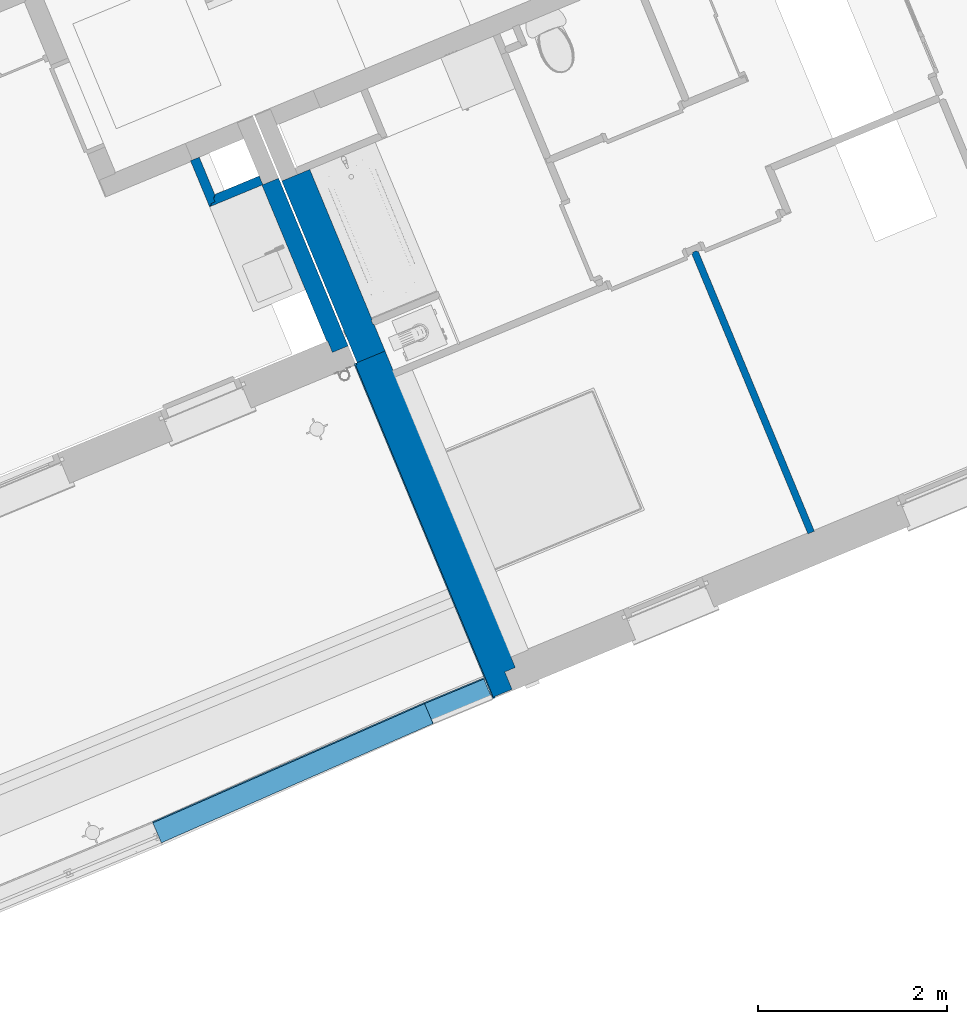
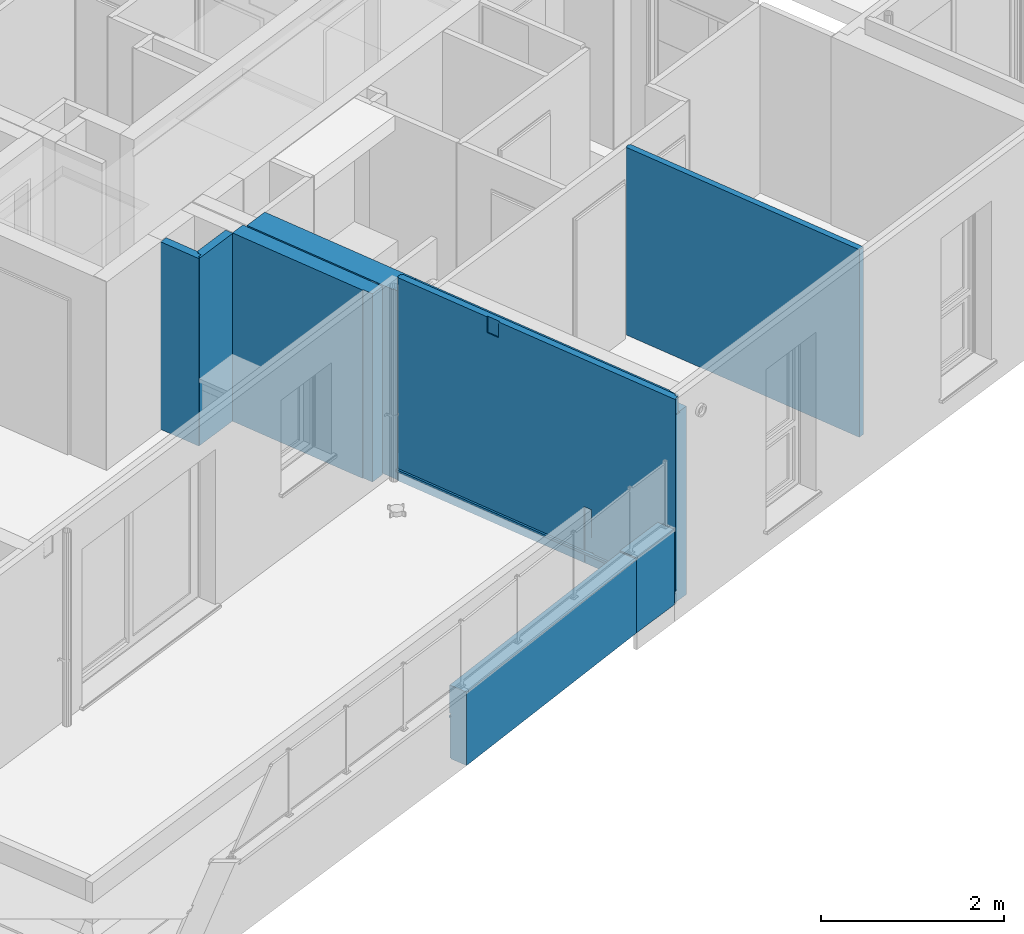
# One storey, part 37 of 119: 8 walls.
"""IFC2X3 building model written with IfcOpenShell, lengths in metres."""

from ifc_helpers import new_model, entity, si_unit, converted_unit, derived_unit, money_unit, direction, frame, origin_with_axes, place, context, subcontext, project, spatial, faceted_brep, material, material_list, type_object, element, save


model = new_model("IFC2X3")

# Units and contexts
model_context = context("Model", 3, precision=1e-05, world=origin_with_axes(), true_north=direction((0.0, 1.0)))
body_context = subcontext(model_context, "Body", "Model", "MODEL_VIEW")
ifc_project = project(units=[si_unit("LENGTHUNIT", "METRE"), si_unit("AREAUNIT", "SQUARE_METRE"), si_unit("VOLUMEUNIT", "CUBIC_METRE"), converted_unit("PLANEANGLEUNIT", "DEGREE", entity("IfcPlaneAngleMeasure", 0.0174532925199), si_unit("PLANEANGLEUNIT", "RADIAN"), dimensions=[0, 0, 0, 0, 0, 0, 0]), si_unit("SOLIDANGLEUNIT", "STERADIAN"), money_unit("EUR"), converted_unit("TIMEUNIT", "Year", entity("IfcTimeMeasure", 31556926.0), si_unit("TIMEUNIT", "SECOND"), dimensions=[0, 0, 1, 0, 0, 0, 0]), si_unit("MASSUNIT", "GRAM", prefix="KILO"), si_unit("THERMODYNAMICTEMPERATUREUNIT", "DEGREE_CELSIUS"), si_unit("LUMINOUSINTENSITYUNIT", "LUMEN"), si_unit("ENERGYUNIT", "JOULE", prefix="MEGA"), derived_unit("THERMALCONDUCTANCEUNIT", [(si_unit("POWERUNIT", "WATT"), 1), (si_unit("LENGTHUNIT", "METRE"), -1), (si_unit("THERMODYNAMICTEMPERATUREUNIT", "KELVIN"), -1)]), derived_unit("SPECIFICHEATCAPACITYUNIT", [(si_unit("ENERGYUNIT", "JOULE"), 1), (si_unit("MASSUNIT", "GRAM", prefix="KILO"), -1), (si_unit("THERMODYNAMICTEMPERATUREUNIT", "KELVIN"), -1)]), derived_unit("MASSDENSITYUNIT", [(si_unit("MASSUNIT", "GRAM", prefix="KILO"), 1), (si_unit("VOLUMEUNIT", "CUBIC_METRE"), -1)])], contexts=[model_context])

# Site, building, storey
site_placement = place(None, origin_with_axes())
site = spatial("IfcSite", under=ifc_project, at=site_placement, Name="Site", CompositionType="ELEMENT")
building_placement = place(site_placement, origin_with_axes())
building = spatial("IfcBuilding", under=site, at=building_placement, Name="Bâtiment", CompositionType="ELEMENT")
storey_placement = place(building_placement, origin_with_axes())
storey = spatial("IfcBuildingStorey", under=building, at=storey_placement, Name="Rez-de-chaussée", CompositionType="ELEMENT", Elevation=0.0)

# Walls
ifc_material_1 = material(Name="Finition int - Plaque de plâtre")
ifc_material_2 = material(Name="Isolation - Laine de roche")
ifc_material_list_1 = material_list([ifc_material_1, ifc_material_2, ifc_material_1])
wall_type_1 = type_object("IfcWallType", Name="3 - Cloison 72mm Placostil 74", PredefinedType="USERDEFINED")
wall_1_placement = place(storey_placement, frame((-18.0212047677, -23.4375216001, 0.0), z_axis=(0.0, 0.0, 1.0), x_axis=(0.383112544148, -0.923701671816, 0.0)))
element("IfcWall", 1, at=wall_1_placement, inside=storey, type_object=wall_type_1, material=ifc_material_list_1, Name="Cloison Placostil 72/48", ObjectType="PARTITIONING", context=body_context, shape_type="Brep", body=[
    faceted_brep([(0.0740000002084, -0.013, 2.5), (3.27899999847, -0.013, 2.5), (3.27899999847, 0.0, 2.5), (0.0740000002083, 0.0, 2.5), (0.0740000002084, -0.013, 0.0), (3.27899999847, -0.013, 0.0), (3.27899999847, 0.0, 0.0), (0.0740000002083, 0.0, 0.0)], [[[0, 1, 2, 3]], [[4, 5, 1, 0]], [[2, 1, 5, 6]], [[3, 2, 6, 7]], [[4, 0, 3, 7]], [[7, 6, 5, 4]]]),
    faceted_brep([(0.0610000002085, -0.061, 2.5), (3.27899999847, -0.061, 2.5), (3.27899999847, -0.013, 2.5), (0.0610000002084, -0.013, 2.5), (0.0610000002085, -0.061, 0.0), (3.27899999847, -0.061, 0.0), (3.27899999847, -0.013, 0.0), (0.0610000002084, -0.013, 0.0)], [[[0, 1, 2, 3]], [[4, 5, 1, 0]], [[2, 1, 5, 6]], [[3, 2, 6, 7]], [[4, 0, 3, 7]], [[7, 6, 5, 4]]]),
    faceted_brep([(0.0740000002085, -0.074, 2.5), (3.27899999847, -0.074, 2.5), (3.27899999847, -0.061, 2.5), (0.0740000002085, -0.061, 2.5), (0.0740000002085, -0.074, 0.0), (3.27899999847, -0.074, 0.0), (3.27899999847, -0.061, 0.0), (0.0740000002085, -0.061, 0.0)], [[[0, 1, 2, 3]], [[4, 5, 1, 0]], [[2, 1, 5, 6]], [[3, 2, 6, 7]], [[4, 0, 3, 7]], [[7, 6, 5, 4]]]),
])
ifc_material_3 = material(Name="Béton")
ifc_material_4 = material(Name="Finition int - Enduit plâtre")
ifc_material_list_2 = material_list([ifc_material_3, ifc_material_4])
wall_type_2 = type_object("IfcWallType", Name="2 - Murs Béton 18 + Enduit 1 Face 190", PredefinedType="USERDEFINED")
wall_2_placement = place(storey_placement, frame((-22.4313350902, -22.7328834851, 0.0), z_axis=(0.0, 0.0, 1.0), x_axis=(0.383112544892, -0.923701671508, 0.0)))
element("IfcWall", 2, at=wall_2_placement, inside=storey, type_object=wall_type_2, material=ifc_material_list_2, Name="M_Ext-008", ObjectType="SOLIDWALL", context=body_context, shape_type="Brep", body=[
    faceted_brep([(0.0, 0.0, 2.51), (1.91999998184, 0.0, 2.51), (1.91999998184, 0.0, 0.0), (0.0, 0.0, 0.0), (1.91999998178, -0.18, 2.51), (0.0, -0.18, 2.51), (1.91999998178, -0.18, 0.0), (0.0, -0.18, 0.0)], [[[0, 1, 2, 3]], [[4, 1, 0, 5]], [[1, 4, 6, 2]], [[3, 2, 6, 7]], [[5, 0, 3, 7]], [[4, 5, 7, 6]]]),
    faceted_brep([(0.0, -0.18, 2.51), (1.78999998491, -0.18, 2.51), (1.78999998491, -0.18, 0.0), (0.0, -0.18, 0.0), (1.78999998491, -0.19, 2.51), (0.0, -0.19, 2.51), (1.78999998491, -0.19, 0.0), (0.0, -0.19, 0.0)], [[[0, 1, 2, 3]], [[4, 1, 0, 5]], [[1, 4, 6, 2]], [[3, 2, 6, 7]], [[5, 0, 3, 7]], [[4, 5, 7, 6]]]),
])
ifc_material_5 = material(Name="Isolation - Polystyrène extrudé")
ifc_material_6 = material(Name="Bloc ELITHERM")
ifc_material_7 = material(Name="Isolation - Polystyrène expansé")
ifc_material_8 = material(Name="Mortier")
ifc_material_9 = material(Name="Béton cellulaire")
ifc_material_10 = material(Name="Etanchéité - Bitume")
ifc_material_11 = material(Name="Finition ext - Crépis")
ifc_material_12 = material(Name="Métal - Aluminium")
ifc_material_list_3 = material_list([ifc_material_1, ifc_material_5, ifc_material_6, ifc_material_7, ifc_material_8, ifc_material_9, ifc_material_10, ifc_material_11, ifc_material_12])
wall_type_3 = type_object("IfcWallType", Name="Mur ALKERN + planelle 21 TERRASSE RDC 356 x 2720", PredefinedType="USERDEFINED")
wall_3_placement = place(storey_placement, frame((-21.6376105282, -24.6987932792, 0.0), z_axis=(0.0, 0.0, 1.0), x_axis=(0.383112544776, -0.923701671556, 0.0)))
element("IfcWall", 3, at=wall_3_placement, inside=storey, type_object=wall_type_3, material=ifc_material_list_3, Name="Mue bloc ALKERN isolé", ObjectType="SOLIDWALL", context=body_context, shape_type="Brep", body=[
    faceted_brep([(3.49945165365, 0.349999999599, 2.5), (3.49945165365, 0.359999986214, 2.49999999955), (3.49945165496, 0.359999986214, 2.50955), (3.49945165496, 0.350000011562, 2.50955), (0.294451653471, 0.359999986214, 2.49999999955), (0.294451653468, 0.349999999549, 2.5), (0.294451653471, 0.359999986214, 2.3), (3.49945165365, 0.359999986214, 2.3), (3.49945165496, 0.359999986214, 0.0), (0.0, 0.359999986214, 0.0), (0.0, 0.359999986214, 2.50955001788), (0.0, 0.350000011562, 2.50955001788), (0.0, 0.350000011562, 0.0), (3.49945165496, 0.350000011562, 0.0), (3.49945165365, 0.349999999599, 2.3), (0.294451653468, 0.349999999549, 2.3)], [[[0, 1, 2, 3]], [[4, 1, 0, 5]], [[6, 7, 8, 9, 10, 2, 1, 4]], [[11, 3, 2, 10]], [[5, 0, 3, 11, 12, 13, 14, 15]], [[6, 4, 5, 15]], [[14, 7, 6, 15]], [[7, 14, 13, 8]], [[9, 8, 13, 12]], [[9, 12, 11, 10]]]),
    faceted_brep([(0.0, 0.22999997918, 2.50955001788), (3.61945168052, 0.22999997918, 2.50955), (3.61945168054, 0.350000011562, 2.50955), (0.0, 0.350000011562, 2.50955001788), (0.0, 0.22999997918, 0.0), (3.61945168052, 0.22999997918, 1.4305127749e-08), (3.61945168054, 0.350000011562, 1.4305127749e-08), (0.0, 0.350000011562, 0.0)], [[[0, 1, 2, 3]], [[1, 0, 4, 5]], [[6, 2, 1, 5]], [[3, 2, 6, 7]], [[4, 0, 3, 7]], [[7, 6, 5, 4]]]),
    faceted_brep([(3.81945167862, 0.0979999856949, 2.50955), (3.81945167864, 0.229999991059, 2.50955), (0.0, 0.229999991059, 2.50955001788), (0.0, 0.0979999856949, 2.50955001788), (3.81945167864, 0.229999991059, 0.207793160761), (3.81945167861, 0.03, 2.50955), (3.81945167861, 0.03, 0.207793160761), (3.81945167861, 0.0310453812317, 0.207793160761), (3.81945167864, 0.229999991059, 0.176532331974), (3.81945167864, 0.229999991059, 0.169414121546), (3.81945167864, 0.229999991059, 0.160000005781), (3.81945167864, 0.229999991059, 0.133633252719), (3.81945167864, 0.229999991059, 0.0), (0.0, 0.229999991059, 0.0), (0.0, 0.03, 0.169414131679), (0.0, 0.0310453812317, 0.169727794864), (0.0, 0.0310453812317, 0.207793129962), (0.0, 0.03, 0.207793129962), (0.0, 0.03, 2.50955001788), (0.0, 0.03, 0.0), (0.0, 0.0300000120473, 0.160000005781), (3.81945167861, 0.0310453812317, 0.176532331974), (3.81945167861, 0.0310453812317, 0.169727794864), (3.81945167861, 0.03, 0.169414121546), (3.81945167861, 0.0300000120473, 0.160000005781), (3.81945167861, 0.03, 0.133633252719), (3.81945167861, 0.03, 0.0)], [[[0, 1, 2, 3]], [[4, 1, 0, 5, 6, 7]], [[1, 4, 8, 9, 10, 11, 12, 13, 2]], [[14, 15, 16, 17, 18, 3, 2, 13, 19, 20]], [[5, 0, 3, 18]], [[6, 5, 18, 17]], [[7, 6, 17, 16]], [[4, 7, 21, 8]], [[9, 8, 21, 22, 23]], [[24, 10, 9, 23]], [[24, 25, 11, 10]], [[11, 25, 26, 12]], [[13, 12, 26, 19]], [[15, 14, 23, 22]], [[22, 21, 7, 16, 15]], [[24, 20, 19, 26, 25]], [[23, 14, 20, 24]]]),
    faceted_brep([(0.0149999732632, 0.0980000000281, 2.51999999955), (0.0149999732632, 0.0980000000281, 2.72), (3.77145167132, 0.0980000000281, 2.72), (3.77145167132, 0.0980000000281, 2.51999999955), (0.0149999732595, 0.0780000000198, 2.72), (0.0149999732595, 0.0780000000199, 2.51999999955), (3.77145167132, 0.0780000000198, 2.72), (3.77145167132, 0.0780000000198, 2.51999999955)], [[[0, 1, 2, 3]], [[4, 1, 0, 5]], [[1, 4, 6, 2]], [[3, 2, 6, 7]], [[5, 0, 3, 7]], [[4, 5, 7, 6]]]),
    faceted_brep([(3.81945167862, 0.098, 2.51999999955), (3.81945167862, 0.098, 2.50999999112), (3.83445167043, 0.098, 2.50999999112), (3.83445164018, 0.098, 2.50955), (0.0, 0.098, 2.50955), (0.0, 0.098, 2.52), (3.81945167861, 0.03, 2.51999999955), (3.81945167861, 0.03, 2.50999999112), (3.83445167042, 0.03, 2.50999999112), (3.83445164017, 0.03, 2.50955), (0.0, 0.03, 2.50955), (0.0, 0.03, 2.52)], [[[0, 1, 2, 3, 4, 5]], [[1, 0, 6, 7]], [[8, 2, 1, 7]], [[2, 8, 9, 3]], [[4, 3, 9, 10]], [[10, 11, 5, 4]], [[6, 0, 5, 11]], [[7, 6, 11, 10, 9, 8]]]),
    faceted_brep([(3.81945167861, 0.03, 2.72), (3.81945167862, 0.0780000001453, 2.72), (0.0, 0.0780000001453, 2.72), (0.0, 0.03, 2.72), (3.81945167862, 0.0780000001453, 2.51999999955), (3.81945167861, 0.03, 2.51999999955), (0.0, 0.0780000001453, 2.51999999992), (0.0, 0.03, 2.51999999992)], [[[0, 1, 2, 3]], [[4, 1, 0, 5]], [[1, 4, 6, 2]], [[3, 2, 6, 7]], [[5, 0, 3, 7]], [[4, 5, 7, 6]]]),
    faceted_brep([(2.57819163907, 0.02, 0.01), (2.57819163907, 0.0299999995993, 0.01), (2.57819163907, 0.0299999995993, 0.133633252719), (2.57819163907, 0.02, 0.133633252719), (0.0149999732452, 0.0299999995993, 0.01), (0.0149999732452, 0.02, 0.01), (3.62295093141, 0.0299999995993, 0.01), (3.17819163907, 0.0299999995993, 0.01), (3.17819163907, 0.0299999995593, 0.11), (2.77819163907, 0.029999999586, 0.11), (2.75455838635, 0.0299999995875, 0.133633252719), (0.0149999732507, 0.0300000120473, 0.133633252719), (-1.48283270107e-08, 0.0300000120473, 0.133633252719), (0.0, 0.0300000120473, 0.160000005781), (3.81945167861, 0.0300000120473, 0.160000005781), (3.81945167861, 0.0300000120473, 0.0), (3.62295093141, 0.0299999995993, 0.0), (2.75455838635, 0.02, 0.133633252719), (3.62314633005, 0.02, 0.01), (3.62314633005, 0.02, 0.0), (3.81945167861, 0.02, 0.0), (3.81945167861, 0.02, 0.160000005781), (0.0, 0.02, 0.160000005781), (-1.48301637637e-08, 0.02, 0.133633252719), (0.0149999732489, 0.02, 0.133633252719), (2.77819163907, 0.02, 0.11), (3.17819163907, 0.02, 0.11), (3.17819163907, 0.02, 0.01)], [[[0, 1, 2, 3]], [[4, 1, 0, 5]], [[6, 7, 8, 9, 10, 2, 1, 4, 11, 12, 13, 14, 15, 16]], [[3, 2, 10, 17]], [[18, 19, 20, 21, 22, 23, 24, 5, 0, 3, 17, 25, 26, 27]], [[4, 5, 24, 11]], [[7, 6, 18, 27]], [[7, 27, 26, 8]], [[25, 9, 8, 26]], [[17, 10, 9, 25]], [[23, 12, 11, 24]], [[13, 12, 23, 22]], [[22, 21, 14, 13]], [[15, 14, 21, 20]], [[19, 16, 15, 20]], [[6, 16, 19, 18]]]),
    faceted_brep([(0.0149999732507, 0.0299999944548, 2.51999999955), (0.0149999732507, 0.0299999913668, 2.72), (1.23999999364, 0.0299999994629, 2.72), (1.23999999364, 0.0299999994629, 2.51999999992), (1.23999999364, 0.0299999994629, 2.51872065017), (1.23999999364, 0.0299999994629, 2.51), (1.36525901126, 0.0299999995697, 2.51), (1.38499999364, 0.0299999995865, 2.51), (1.39999999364, 0.0299999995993, 2.51), (1.39999999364, 0.0299999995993, 2.51872065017), (1.39999999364, 0.0299999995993, 2.51999999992), (1.39999999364, 0.0299999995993, 2.72), (3.83445164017, 0.0299999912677, 2.72), (3.83445164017, 0.0300000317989, 0.176532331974), (2.71165930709, 0.0299999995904, 0.176532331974), (2.68039847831, 0.0299999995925, 0.207793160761), (2.67819163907, 0.0299999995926, 0.21), (2.67819163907, 0.0299999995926, 0.76), (2.57819163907, 0.0299999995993, 0.76), (2.57819163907, 0.0299999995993, 0.207793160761), (2.57819163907, 0.0299999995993, 0.176532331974), (0.0149999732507, 0.0300000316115, 0.176532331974), (0.0149999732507, 0.0300000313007, 0.207793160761), (0.0149999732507, 0.0299999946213, 2.50955), (0.0149999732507, 0.0299999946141, 2.50999999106), (0.014999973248, 0.0150000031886, 2.72), (0.014999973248, 0.0149999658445, 2.51999999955), (1.23999999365, 0.0150000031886, 2.72), (1.23999999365, 0.0149999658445, 2.51999999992), (1.23999999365, 0.0149999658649, 2.51872065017), (1.23999999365, 0.0149999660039, 2.51), (1.36525901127, 0.0149999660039, 2.51), (1.38499999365, 0.0149999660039, 2.51), (1.39999999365, 0.0149999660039, 2.51), (1.39999999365, 0.0149999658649, 2.51872065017), (1.39999999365, 0.0149999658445, 2.51999999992), (1.39999999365, 0.0150000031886, 2.72), (3.83445164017, 0.0150000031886, 2.72), (3.83445164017, 0.0150000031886, 0.176532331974), (2.71165930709, 0.0150000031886, 0.176532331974), (2.68039847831, 0.0150000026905, 0.207793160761), (2.67819163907, 0.0150000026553, 0.21), (2.67819163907, 0.0149999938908, 0.76), (2.57819163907, 0.0149999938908, 0.76), (2.57819163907, 0.0150000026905, 0.207793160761), (2.57819163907, 0.0150000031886, 0.176532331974), (0.014999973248, 0.0150000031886, 0.176532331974), (0.014999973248, 0.0150000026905, 0.207793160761), (0.014999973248, 0.014999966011, 2.50955), (0.014999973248, 0.0149999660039, 2.50999999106)], [[[0, 1, 2, 3, 4, 5, 6, 7, 8, 9, 10, 11, 12, 13, 14, 15, 16, 17, 18, 19, 20, 21, 22, 23, 24]], [[25, 1, 0, 26]], [[1, 25, 27, 2]], [[3, 2, 27, 28]], [[3, 28, 29, 4]], [[4, 29, 30, 5]], [[31, 6, 5, 30]], [[32, 7, 6, 31]], [[8, 7, 32, 33]], [[34, 9, 8, 33]], [[35, 10, 9, 34]], [[36, 11, 10, 35]], [[11, 36, 37, 12]], [[38, 13, 12, 37]], [[39, 14, 13, 38]], [[40, 15, 14, 39]], [[16, 15, 40, 41]], [[17, 16, 41, 42]], [[18, 17, 42, 43]], [[19, 18, 43, 44]], [[19, 44, 45, 20]], [[46, 21, 20, 45]], [[47, 22, 21, 46]], [[48, 23, 22, 47]], [[49, 24, 23, 48]], [[26, 0, 24, 49]], [[25, 26, 49, 48, 47, 46, 45, 44, 43, 42, 41, 40, 39, 38, 37, 36, 35, 34, 33, 32, 31, 30, 29, 28, 27]]]),
    faceted_brep([(3.83445164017, 0.03, 0.207793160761), (3.83445164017, 0.0310453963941, 0.207793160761), (0.0, 0.0310453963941, 0.207793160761), (0.0, 0.03, 0.207793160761), (3.83445164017, 0.0310453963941, 0.169727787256), (3.83445164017, 0.0300000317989, 0.176532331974), (3.83445164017, 0.03, 0.170774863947), (3.83445164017, 0.00356074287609, 0.162931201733), (3.83445164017, 0.00356074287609, 0.133633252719), (3.83445164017, 0.00479482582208, 0.133633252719), (3.83445164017, 0.00479482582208, 0.161852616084), (3.83445164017, 0.03, 0.169414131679), (0.0, 0.0310453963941, 0.169727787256), (0.0, 0.0035607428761, 0.162931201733), (0.0, 0.03, 0.170774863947), (0.0, 0.0300000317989, 0.176532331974), (0.0, 0.03, 0.169414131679), (0.0, 0.00479482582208, 0.161852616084), (0.0, 0.00479482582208, 0.133633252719), (0.0, 0.0035607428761, 0.133633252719)], [[[0, 1, 2, 3]], [[4, 1, 0, 5, 6, 7, 8, 9, 10, 11]], [[1, 4, 12, 2]], [[13, 14, 15, 3, 2, 12, 16, 17, 18, 19]], [[5, 0, 3, 15]], [[6, 5, 15, 14]], [[7, 6, 14, 13]], [[8, 7, 13, 19]], [[9, 8, 19, 18]], [[10, 9, 18, 17]], [[11, 10, 17, 16]], [[4, 11, 16, 12]]]),
])
ifc_material_list_4 = material_list([ifc_material_1, ifc_material_1, ifc_material_2, ifc_material_1, ifc_material_1])
wall_type_4 = type_object("IfcWallType", Name="3 - Cloison Gaine Technique 98mm 100", PredefinedType="USERDEFINED")
wall_4_placement = place(storey_placement, frame((-23.1610594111, -23.0355423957, 0.0), z_axis=(0.0, 0.0, 1.0), x_axis=(0.92370167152, 0.383112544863, 0.0)))
element("IfcWall", 4, at=wall_4_placement, inside=storey, type_object=wall_type_4, material=ifc_material_list_4, Name="Cloison 98 isolée", ObjectType="PARTITIONING", context=body_context, shape_type="Brep", body=[
    faceted_brep([(0.100000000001, 0.1, 0.0), (0.610000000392, 0.1, 0.0), (0.610000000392, 0.087, 0.0), (0.100000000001, 0.087, 0.0), (0.100000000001, 0.1, 2.5), (0.610000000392, 0.1, 2.5), (0.610000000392, 0.087, 2.5), (0.100000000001, 0.087, 2.5)], [[[0, 1, 2, 3]], [[4, 5, 1, 0]], [[2, 1, 5, 6]], [[3, 2, 6, 7]], [[4, 0, 3, 7]], [[7, 6, 5, 4]]]),
    faceted_brep([(0.0870000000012, 0.087, 0.0), (0.610000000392, 0.087, 0.0), (0.610000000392, 0.074, 0.0), (0.0870000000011, 0.074, 0.0), (0.0870000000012, 0.087, 2.5), (0.610000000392, 0.087, 2.5), (0.610000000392, 0.074, 2.5), (0.0870000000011, 0.074, 2.5)], [[[0, 1, 2, 3]], [[4, 5, 1, 0]], [[2, 1, 5, 6]], [[3, 2, 6, 7]], [[4, 0, 3, 7]], [[7, 6, 5, 4]]]),
    faceted_brep([(0.0740000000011, 0.074, 0.0), (0.610000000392, 0.074, 0.0), (0.610000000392, 0.026, 0.0), (0.0740000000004, 0.026, 0.0), (0.0740000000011, 0.074, 2.5), (0.610000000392, 0.074, 2.5), (0.610000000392, 0.026, 2.5), (0.0740000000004, 0.026, 2.5)], [[[0, 1, 2, 3]], [[4, 5, 1, 0]], [[2, 1, 5, 6]], [[3, 2, 6, 7]], [[4, 0, 3, 7]], [[7, 6, 5, 4]]]),
    faceted_brep([(0.0260000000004, 0.026, 0.0), (0.610000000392, 0.026, 0.0), (0.610000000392, 0.013, 0.0), (0.0260000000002, 0.013, 0.0), (0.0260000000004, 0.026, 2.5), (0.610000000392, 0.026, 2.5), (0.610000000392, 0.013, 2.5), (0.0260000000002, 0.013, 2.5)], [[[0, 1, 2, 3]], [[4, 5, 1, 0]], [[2, 1, 5, 6]], [[3, 2, 6, 7]], [[4, 0, 3, 7]], [[7, 6, 5, 4]]]),
    faceted_brep([(0.0130000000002, 0.013, 0.0), (0.610000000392, 0.013, 0.0), (0.610000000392, 0.0, 0.0), (0.013, 0.0, 0.0), (0.0130000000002, 0.013, 2.5), (0.610000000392, 0.013, 2.5), (0.610000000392, 0.0, 2.5), (0.013, 0.0, 2.5)], [[[0, 1, 2, 3]], [[4, 5, 1, 0]], [[2, 1, 5, 6]], [[3, 2, 6, 7]], [[4, 0, 3, 7]], [[7, 6, 5, 4]]]),
])
wall_5_placement = place(storey_placement, frame((-23.363131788, -22.5483367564, 0.0), z_axis=(0.0, 0.0, 1.0), x_axis=(0.38311254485, -0.923701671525, 0.0)))
element("IfcWall", 5, at=wall_5_placement, inside=storey, type_object=wall_type_4, material=ifc_material_list_4, Name="Cloison 98 isolée", ObjectType="PARTITIONING", context=body_context, shape_type="Brep", body=[
    faceted_brep([(0.440449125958, 0.1, 0.0), (0.440449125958, 0.087, 0.0), (0.0, 0.087, 0.0), (0.0, 0.1, 0.0), (0.440449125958, 0.1, 2.5), (0.440449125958, 0.087, 2.5), (0.0, 0.087, 2.5), (0.0, 0.1, 2.5)], [[[0, 1, 2, 3]], [[1, 0, 4, 5]], [[1, 5, 6, 2]], [[7, 3, 2, 6]], [[4, 0, 3, 7]], [[5, 4, 7, 6]]]),
    faceted_brep([(0.453449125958, 0.087, 0.0), (0.453449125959, 0.074, 0.0), (0.0, 0.074, 0.0), (0.0, 0.087, 0.0), (0.453449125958, 0.087, 2.5), (0.453449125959, 0.074, 2.5), (0.0, 0.074, 2.5), (0.0, 0.087, 2.5)], [[[0, 1, 2, 3]], [[1, 0, 4, 5]], [[1, 5, 6, 2]], [[7, 3, 2, 6]], [[4, 0, 3, 7]], [[5, 4, 7, 6]]]),
    faceted_brep([(0.501449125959, 0.074, 0.0), (0.501449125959, 0.026, 0.0), (0.0, 0.026, 0.0), (0.0, 0.074, 0.0), (0.501449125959, 0.074, 2.5), (0.501449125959, 0.026, 2.5), (0.0, 0.026, 2.5), (0.0, 0.074, 2.5)], [[[0, 1, 2, 3]], [[1, 0, 4, 5]], [[1, 5, 6, 2]], [[7, 3, 2, 6]], [[4, 0, 3, 7]], [[5, 4, 7, 6]]]),
    faceted_brep([(0.514449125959, 0.026, 0.0), (0.51444912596, 0.013, 0.0), (0.0, 0.013, 0.0), (0.0, 0.026, 0.0), (0.514449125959, 0.026, 2.5), (0.51444912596, 0.013, 2.5), (0.0, 0.013, 2.5), (0.0, 0.026, 2.5)], [[[0, 1, 2, 3]], [[1, 0, 4, 5]], [[1, 5, 6, 2]], [[7, 3, 2, 6]], [[4, 0, 3, 7]], [[5, 4, 7, 6]]]),
    faceted_brep([(0.52744912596, 0.013, 0.0), (0.52744912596, 0.0, 0.0), (0.0, 0.0, 0.0), (0.0, 0.013, 0.0), (0.52744912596, 0.013, 2.5), (0.52744912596, 0.0, 2.5), (0.0, 0.0, 2.5), (0.0, 0.013, 2.5)], [[[0, 1, 2, 3]], [[1, 0, 4, 5]], [[1, 5, 6, 2]], [[7, 3, 2, 6]], [[4, 0, 3, 7]], [[5, 4, 7, 6]]]),
])
ifc_material_list_5 = material_list([ifc_material_12, ifc_material_11, ifc_material_10, ifc_material_3, ifc_material_11])
wall_type_5 = type_object("IfcWallType", Name="Acrotère ravalement contre terre 242 x 1000", PredefinedType="USERDEFINED")
wall_6_placement = place(storey_placement, frame((-23.6709649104, -29.7623278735, 0.250470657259), z_axis=(0.0, 0.0, 1.0), x_axis=(0.915728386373, 0.401797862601, 0.0)))
element("IfcWall", 6, at=wall_6_placement, inside=storey, type_object=wall_type_5, material=ifc_material_list_5, Name="Muret béton 20cm", ObjectType="PARAPET", context=body_context, shape_type="Brep", body=[
    faceted_brep([(3.13987759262, 0.215, 0.318976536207), (3.13987759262, 0.215, 0.357041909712), (0.002184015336, 0.215, 0.357041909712), (0.002184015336, 0.215, 0.318976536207), (3.13988821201, 0.216045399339, 0.357041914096), (3.14014425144, 0.241250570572, 0.311101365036), (3.14014425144, 0.241250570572, 0.282882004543), (3.1401567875, 0.242484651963, 0.282882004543), (3.1401567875, 0.242484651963, 0.312179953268), (3.13988821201, 0.216045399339, 0.32002362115), (0.00219463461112, 0.216045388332, 0.357041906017), (0.00219463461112, 0.216045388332, 0.320023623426), (0.0024632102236, 0.242484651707, 0.312179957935), (0.0024632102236, 0.242484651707, 0.282882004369), (0.0024506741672, 0.241250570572, 0.282882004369), (0.0024506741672, 0.241250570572, 0.311101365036)], [[[0, 1, 2, 3]], [[4, 1, 0, 5, 6, 7, 8, 9]], [[1, 4, 10, 2]], [[3, 2, 10, 11, 12, 13, 14, 15]], [[5, 0, 3, 15]], [[6, 5, 15, 14]], [[7, 6, 14, 13]], [[8, 7, 13, 12]], [[9, 8, 12, 11]], [[4, 9, 11, 10]]]),
    faceted_brep([(3.1400299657, 0.229999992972, 0.728827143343), (3.13987759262, 0.215, 0.728827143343), (3.13987759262, 0.215, 0.357041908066), (3.13988821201, 0.216045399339, 0.357041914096), (3.1400299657, 0.229999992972, 0.357041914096), (0.002184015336, 0.215, 0.728827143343), (0.00233638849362, 0.229999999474, 0.728827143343), (0.002184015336, 0.215, 0.357041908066), (0.00219463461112, 0.216045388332, 0.357041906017), (0.00233638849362, 0.229999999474, 0.357041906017)], [[[0, 1, 2, 3, 4]], [[5, 1, 0, 6]], [[1, 5, 7, 2]], [[8, 3, 2, 7]], [[9, 4, 3, 8]], [[6, 0, 4, 9]], [[5, 6, 9, 8, 7]]]),
    faceted_brep([(1.47941797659, 0.215, -0.240470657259), (1.47941797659, 0.215, -0.200470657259), (3.13987759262, 0.215, -0.200470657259), (3.13987759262, 0.215, 0.31), (0.002184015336, 0.215, 0.31), (0.002184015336, 0.215, -0.240470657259), (0.987256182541, 0.22499999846, -0.240470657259), (0.987256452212, 0.224999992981, -0.200470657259), (3.13997917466, 0.224999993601, -0.200470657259), (3.13997917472, 0.225, 0.31), (0.00228559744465, 0.225, 0.31), (0.00228559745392, 0.225000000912, -0.240470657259)], [[[0, 1, 2, 3, 4, 5]], [[1, 0, 6, 7]], [[8, 2, 1, 7]], [[2, 8, 9, 3]], [[4, 3, 9, 10]], [[11, 5, 4, 10]], [[6, 0, 5, 11]], [[7, 6, 11, 10, 9, 8]]]),
    faceted_brep([(3.13987759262, 0.215, -0.240470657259), (3.13973201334, 0.200668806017, -0.240470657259), (3.13973201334, 0.200668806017, -0.200470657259), (3.13987759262, 0.215, -0.200470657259), (3.13987759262, 0.215, 0.31), (3.13987759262, 0.215, 0.31897654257), (3.13987759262, 0.215, 0.728827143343), (3.13784595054, 0.015, 0.728827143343), (3.13784595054, 0.015, -0.25), (3.13987759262, 0.215, -0.25), (1.47941797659, 0.215, -0.240470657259), (2.19451281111, 0.200470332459, -0.240470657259), (2.19451281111, 0.200470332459, -0.200470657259), (1.47941797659, 0.215, -0.200470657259), (0.002184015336, 0.215, -0.25), (0.002184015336, 0.215, 0.31), (0.002184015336, 0.215, 0.31897654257), (0.002184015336, 0.215, 0.728827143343), (0.000152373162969, 0.015, 0.728827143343), (0.000152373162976, 0.015, -0.25)], [[[0, 1, 2, 3, 4, 5, 6, 7, 8, 9]], [[1, 0, 10, 11]], [[2, 1, 11, 12]], [[3, 2, 12, 13]], [[10, 0, 9, 14, 15, 4, 3, 13]], [[15, 16, 5, 4]], [[16, 17, 6, 5]], [[17, 18, 7, 6]], [[8, 7, 18, 19]], [[19, 14, 9, 8]], [[10, 13, 12, 11]], [[19, 18, 17, 16, 15, 14]]]),
    faceted_brep([(3.13784595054, 0.015, -0.25), (3.13784595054, 0.015, 0.728827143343), (3.13769357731, -6.62833343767e-09, 0.728827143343), (3.13769357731, -6.62833343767e-09, -0.25), (0.000152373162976, 0.015, -0.25), (0.000152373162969, 0.015, 0.728827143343), (0.0, -6.54927845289e-09, 0.728827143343), (0.0, -6.54927845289e-09, -0.25)], [[[0, 1, 2, 3]], [[4, 5, 1, 0]], [[5, 6, 2, 1]], [[3, 2, 6, 7]], [[7, 4, 0, 3]], [[7, 6, 5, 4]]]),
])
wall_7_placement = place(storey_placement, frame((-20.7976898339, -28.5016093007, 0.25), z_axis=(0.0, 0.0, 1.0), x_axis=(0.923701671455, 0.38311254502, 0.0)))
element("IfcWall", 7, at=wall_7_placement, inside=storey, type_object=wall_type_5, material=ifc_material_list_5, Name="Muret béton 20cm", ObjectType="PARAPET", context=body_context, shape_type="Brep", body=[
    faceted_brep([(-0.00219463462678, 0.216045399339, 0.35704190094), (-0.00218401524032, 0.215, 0.357041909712), (0.678258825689, 0.215, 0.357041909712), (0.678258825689, 0.216045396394, 0.357041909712), (-0.00218401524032, 0.215, 0.318976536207), (-0.00219463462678, 0.216045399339, 0.320023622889), (-0.00246321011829, 0.242484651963, 0.312179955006), (-0.00246321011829, 0.242484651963, 0.282882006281), (-0.00245067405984, 0.241250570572, 0.282882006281), (-0.00245067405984, 0.241250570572, 0.311101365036), (0.678258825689, 0.215, 0.318976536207), (0.678258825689, 0.241250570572, 0.282882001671), (0.678258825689, 0.242484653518, 0.282882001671), (0.678258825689, 0.242484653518, 0.312179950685), (0.678258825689, 0.216045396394, 0.320023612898), (0.678258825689, 0.241250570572, 0.311101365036)], [[[0, 1, 2, 3]], [[4, 1, 0, 5, 6, 7, 8, 9]], [[1, 4, 10, 2]], [[11, 12, 13, 14, 3, 2, 10, 15]], [[5, 0, 3, 14]], [[6, 5, 14, 13]], [[7, 6, 13, 12]], [[8, 7, 12, 11]], [[9, 8, 11, 15]], [[4, 9, 15, 10]]]),
    faceted_brep([(-0.00233638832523, 0.229999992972, 0.75), (-0.00218401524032, 0.215, 0.75), (0.678258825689, 0.215, 0.75), (0.678258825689, 0.23, 0.75), (-0.00218401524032, 0.215, 0.357041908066), (-0.00233638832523, 0.229999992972, 0.35704190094), (-0.00219463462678, 0.216045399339, 0.35704190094), (0.678258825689, 0.215, 0.357041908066), (0.678258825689, 0.216045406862, 0.357041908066), (0.678258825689, 0.23, 0.357041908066)], [[[0, 1, 2, 3]], [[4, 1, 0, 5, 6]], [[1, 4, 7, 2]], [[8, 9, 3, 2, 7]], [[5, 0, 3, 9]], [[6, 5, 9, 8]], [[4, 6, 8, 7]]]),
    faceted_brep([(-0.00218401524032, 0.215, -0.2), (0.678258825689, 0.215, -0.2), (0.678258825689, 0.215, 0.31), (-0.00218401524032, 0.215, 0.31), (0.678258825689, 0.225, -0.2), (-0.00228559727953, 0.224999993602, -0.2), (0.678258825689, 0.225, 0.31), (-0.00228559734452, 0.225, 0.31)], [[[0, 1, 2, 3]], [[4, 1, 0, 5]], [[1, 4, 6, 2]], [[6, 7, 3, 2]], [[5, 0, 3, 7]], [[4, 5, 7, 6]]]),
    faceted_brep([(0.678258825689, 0.215, -0.24), (0.678258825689, 0.21463434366, -0.24), (0.678258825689, 0.21463434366, -0.2), (0.678258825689, 0.215, -0.2), (0.678258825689, 0.215, 0.31), (0.678258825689, 0.215, 0.31897654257), (0.678258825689, 0.215, 0.75), (0.678258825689, 0.015, 0.75), (0.678258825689, 0.015, -0.25), (0.678258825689, 0.215, -0.25), (-0.00218401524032, 0.215, -0.24), (-0.00203843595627, 0.200668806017, -0.24), (-0.00203843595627, 0.200668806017, -0.2), (-0.00218401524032, 0.215, -0.2), (-0.00218401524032, 0.215, 0.31), (-0.00218401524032, 0.215, 0.31897654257), (-0.00218401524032, 0.215, 0.75), (-0.000152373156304, 0.015, 0.75), (-0.000152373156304, 0.015, -0.249529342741), (0.0, 0.015, -0.24952934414), (0.0, 0.015, -0.25), (0.0, 0.215, -0.25), (0.0, 0.215, -0.24952934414), (-0.00218401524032, 0.215, -0.249529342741)], [[[0, 1, 2, 3, 4, 5, 6, 7, 8, 9]], [[1, 0, 10, 11]], [[2, 1, 11, 12]], [[3, 2, 12, 13]], [[3, 13, 14, 4]], [[4, 14, 15, 5]], [[5, 15, 16, 6]], [[6, 16, 17, 7]], [[7, 17, 18, 19, 20, 8]], [[8, 20, 21, 9]], [[10, 0, 9, 21, 22, 23]], [[11, 10, 23, 18, 17, 16, 15, 14, 13, 12]], [[19, 18, 23, 22]], [[21, 20, 19, 22]]]),
    faceted_brep([(0.678258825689, 0.015, 0.75), (-0.000152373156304, 0.015, 0.75), (0.0, -6.62833343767e-09, 0.75), (0.678258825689, 0.0, 0.75), (0.0, 0.015, -0.24952934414), (-0.000152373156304, 0.015, -0.249529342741), (0.678258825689, 0.015, -0.25), (0.0, 0.015, -0.25), (0.0, -6.62833343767e-09, -0.249529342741), (0.0, 7.4505734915e-10, -0.25), (0.678258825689, 0.0, -0.25)], [[[0, 1, 2, 3]], [[4, 5, 1, 0, 6, 7]], [[5, 8, 2, 1]], [[3, 2, 8, 9, 10]], [[3, 10, 6, 0]], [[4, 8, 5]], [[10, 9, 7, 6]], [[7, 9, 8, 4]]]),
])
ifc_material_13 = material(Name="Divers - Vide")
ifc_material_list_6 = material_list([ifc_material_1, ifc_material_5, ifc_material_13, ifc_material_3])
wall_type_6 = type_object("IfcWallType", Name="2 - Murs Béton 18 + isolant 100 320", PredefinedType="USERDEFINED")
wall_8_placement = place(storey_placement, frame((-22.3973635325, -22.7625864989, 0.0), z_axis=(0.0, 0.0, 1.0), x_axis=(0.383112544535, -0.923701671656, 0.0)))
element("IfcWall", 8, at=wall_8_placement, inside=storey, type_object=wall_type_6, material=ifc_material_list_6, Name="M_Ext-008", ObjectType="SOLIDWALL", context=body_context, shape_type="Brep", body=[
    faceted_brep([(0.0, 0.32, 2.51), (2.07954834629, 0.32, 2.51), (2.07954834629, 0.32, 0.0), (1.77099999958, 0.32, 0.0), (1.77099999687, 0.32, 2.5), (1.72300000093, 0.32, 2.5), (1.72299999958, 0.32, 0.0), (0.0, 0.32, 0.0), (0.0, 0.31, 2.51), (2.07954834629, 0.31, 2.51), (2.07954834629, 0.31, 0.0), (1.77099999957, 0.31, 0.0), (1.77099999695, 0.31, 2.5), (1.72300000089, 0.31, 2.5), (1.72299999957, 0.31, 0.0), (0.0, 0.31, 0.0)], [[[0, 1, 2, 3, 4, 5, 6, 7]], [[1, 0, 8, 9]], [[1, 9, 10, 2]], [[10, 11, 3, 2]], [[12, 4, 3, 11]], [[13, 5, 4, 12]], [[14, 6, 5, 13]], [[7, 6, 14, 15]], [[8, 0, 7, 15]], [[8, 15, 14, 13, 12, 11, 10, 9]]]),
    faceted_brep([(0.0, 0.31, 2.51), (2.07954834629, 0.31, 2.51), (2.07954834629, 0.31, 0.0), (0.0, 0.31, 0.0), (0.0, 0.19, 2.51), (2.07954834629, 0.19, 2.51), (2.07954834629, 0.19, 0.0), (0.0, 0.19, 0.0)], [[[0, 1, 2, 3]], [[1, 0, 4, 5]], [[1, 5, 6, 2]], [[3, 2, 6, 7]], [[4, 0, 3, 7]], [[4, 7, 6, 5]]]),
    faceted_brep([(0.0, 0.19, 2.51), (2.07954834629, 0.19, 2.51), (2.07954834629, 0.19, 0.0), (0.0, 0.19, 0.0), (0.0, 0.18, 2.51), (2.07954834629, 0.18, 2.51), (2.07954834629, 0.18, 0.0), (0.0, 0.18, 0.0)], [[[0, 1, 2, 3]], [[1, 0, 4, 5]], [[1, 5, 6, 2]], [[3, 2, 6, 7]], [[4, 0, 3, 7]], [[4, 7, 6, 5]]]),
    faceted_brep([(0.0, 0.18, 2.51), (2.07954834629, 0.18, 2.51), (2.07954834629, 0.18, 0.0), (0.0, 0.18, 0.0), (0.0, 0.0, 2.51), (2.01154834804, 0.0, 2.51), (2.01154834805, 0.0579999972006, 2.51), (2.07954834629, 0.057999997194, 2.51), (2.07954834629, 0.057999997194, 2.52), (2.07954834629, 0.0, 2.52), (2.07954834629, 0.0, 0.0), (0.0, 0.0, 0.0), (2.01154834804, 0.0, 2.52), (2.01154834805, 0.0579999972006, 2.52)], [[[0, 1, 2, 3]], [[1, 0, 4, 5, 6, 7]], [[7, 8, 9, 10, 2, 1]], [[3, 2, 10, 11]], [[4, 0, 3, 11]], [[5, 4, 11, 10, 9, 12]], [[12, 13, 6, 5]], [[6, 13, 8, 7]], [[13, 12, 9, 8]]]),
])

save(model, "model.ifc")
